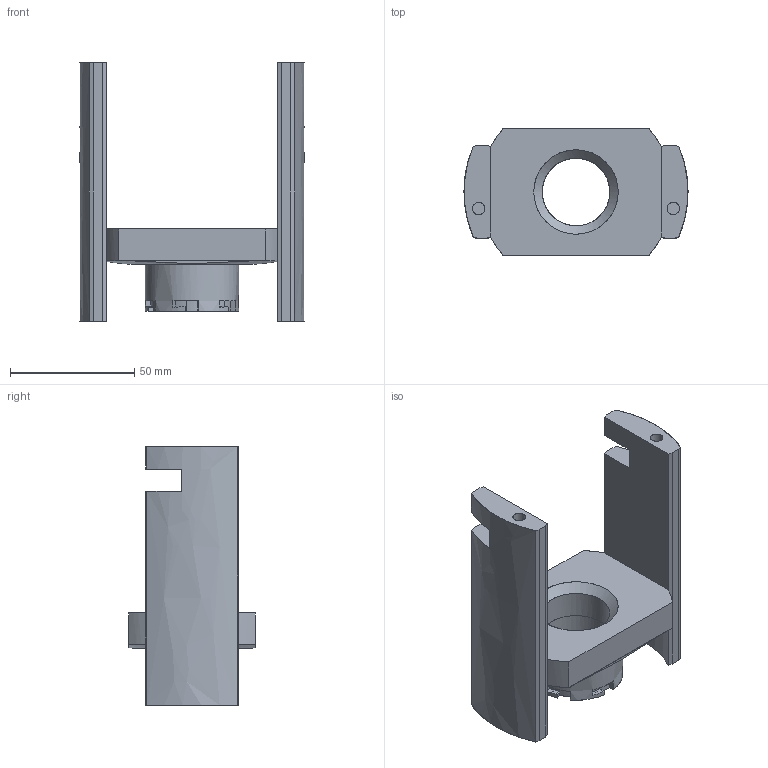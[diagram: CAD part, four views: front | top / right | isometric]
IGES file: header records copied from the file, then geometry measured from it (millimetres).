
Global section: file name: E:\M1337\M1337 Remodel\Metric\Clutch\IGES Files\Clutch Carrier Metric.igs; native system: NX V2007; preprocessor: SIEMENS PLM Software NX 2027; date: 20260731.082958; units: millimetre
Bounding box: 90.15 x 50.8 x 104.05 mm (x, y, z)
Surface area: 32031.9 mm2 (no closed solid volume)
Topology: 0 solids, 0 shells, 117 faces, 808 edges, 932 vertices
Faces by surface type: bspline 117
